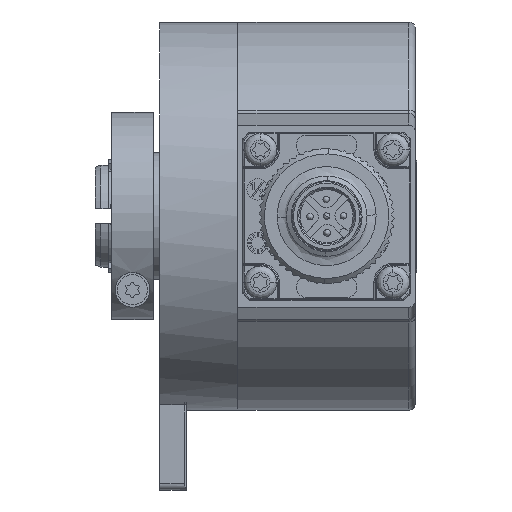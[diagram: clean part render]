
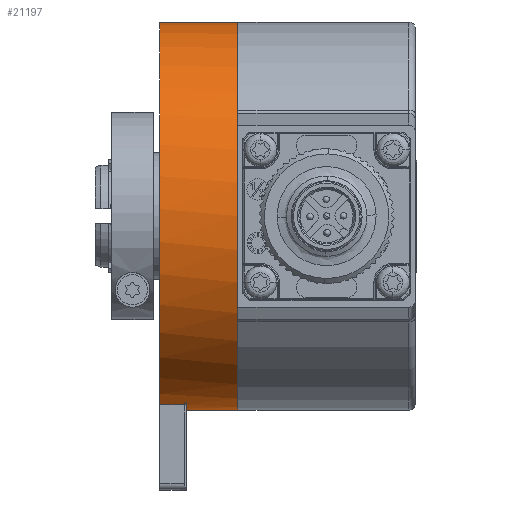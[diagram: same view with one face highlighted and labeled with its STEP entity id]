
A CAD part, front view. The second image highlights one B-rep face of the part: STEP entity #21197.
In plain terms, the highlighted cylindrical face has radius 29 mm (diameter 58 mm), a partial arc.
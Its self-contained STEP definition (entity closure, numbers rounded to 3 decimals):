
#520 = VERTEX_POINT ( 'NONE', #46749 ) ;
#3657 = ORIENTED_EDGE ( 'NONE', *, *, #9988, .T. ) ;
#4505 = AXIS2_PLACEMENT_3D ( 'NONE', #44130, #8391, #11355 ) ;
#5128 = DIRECTION ( 'NONE',  ( 1., 0., 0. ) ) ;
#5251 = CARTESIAN_POINT ( 'NONE',  ( 0.378, 25.423, -29. ) ) ;
#5910 = AXIS2_PLACEMENT_3D ( 'NONE', #47249, #38697, #51531 ) ;
#6251 = VERTEX_POINT ( 'NONE', #5251 ) ;
#8391 = DIRECTION ( 'NONE',  ( 1., 0., 0. ) ) ;
#9988 = EDGE_CURVE ( 'NONE', #520, #19162, #14716, .T. ) ;
#11355 = DIRECTION ( 'NONE',  ( 0., 0., -1. ) ) ;
#12588 = LINE ( 'NONE', #25666, #23919 ) ;
#13650 = EDGE_LOOP ( 'NONE', ( #15239, #3657, #31867, #35582, #44698, #43561 ) ) ;
#14382 = VERTEX_POINT ( 'NONE', #50477 ) ;
#14716 = CIRCLE ( 'NONE', #42860, 29. ) ;
#15190 = LINE ( 'NONE', #52017, #41153 ) ;
#15239 = ORIENTED_EDGE ( 'NONE', *, *, #41813, .F. ) ;
#16398 = LINE ( 'NONE', #36922, #51394 ) ;
#18223 = FACE_OUTER_BOUND ( 'NONE', #13650, .T. ) ;
#19162 = VERTEX_POINT ( 'NONE', #41524 ) ;
#20288 = DIRECTION ( 'NONE',  ( 0., 0., -1. ) ) ;
#21197 = ADVANCED_FACE ( 'NONE', ( #18223 ), #34448, .T. ) ;
#21645 = CARTESIAN_POINT ( 'NONE',  ( 0.378, 18.423, -28.142 ) ) ;
#22115 = VERTEX_POINT ( 'NONE', #21645 ) ;
#23488 = DIRECTION ( 'NONE',  ( 1., 0., 0. ) ) ;
#23807 = CARTESIAN_POINT ( 'NONE',  ( 8.068, 25.423, 29. ) ) ;
#23919 = VECTOR ( 'NONE', #5128, 1000. ) ;
#24741 = EDGE_CURVE ( 'NONE', #6251, #14382, #12588, .T. ) ;
#25666 = CARTESIAN_POINT ( 'NONE',  ( 8.068, 25.423, -29. ) ) ;
#26443 = VERTEX_POINT ( 'NONE', #23807 ) ;
#26718 = DIRECTION ( 'NONE',  ( -1., 0., 0. ) ) ;
#27528 = EDGE_CURVE ( 'NONE', #22115, #6251, #30628, .T. ) ;
#28357 = CIRCLE ( 'NONE', #4505, 29. ) ;
#30227 = DIRECTION ( 'NONE',  ( 0., 0., -1. ) ) ;
#30480 = CARTESIAN_POINT ( 'NONE',  ( 8.068, 25.423, 0. ) ) ;
#30628 = CIRCLE ( 'NONE', #5910, 29. ) ;
#31867 = ORIENTED_EDGE ( 'NONE', *, *, #51707, .F. ) ;
#34448 = CYLINDRICAL_SURFACE ( 'NONE', #41461, 29. ) ;
#35582 = ORIENTED_EDGE ( 'NONE', *, *, #27528, .T. ) ;
#36922 = CARTESIAN_POINT ( 'NONE',  ( 8.068, 25.423, 29. ) ) ;
#37652 = DIRECTION ( 'NONE',  ( 1., 0., 0. ) ) ;
#38697 = DIRECTION ( 'NONE',  ( 1., 0., 0. ) ) ;
#39689 = CARTESIAN_POINT ( 'NONE',  ( -3.622, 25.423, 0. ) ) ;
#40132 = DIRECTION ( 'NONE',  ( 1., 0., 0. ) ) ;
#40804 = EDGE_CURVE ( 'NONE', #26443, #14382, #28357, .T. ) ;
#41153 = VECTOR ( 'NONE', #26718, 1000. ) ;
#41461 = AXIS2_PLACEMENT_3D ( 'NONE', #30480, #37652, #30227 ) ;
#41524 = CARTESIAN_POINT ( 'NONE',  ( -3.622, 18.423, -28.142 ) ) ;
#41813 = EDGE_CURVE ( 'NONE', #520, #26443, #16398, .T. ) ;
#42860 = AXIS2_PLACEMENT_3D ( 'NONE', #39689, #23488, #20288 ) ;
#43561 = ORIENTED_EDGE ( 'NONE', *, *, #40804, .F. ) ;
#44130 = CARTESIAN_POINT ( 'NONE',  ( 8.068, 25.423, 0. ) ) ;
#44698 = ORIENTED_EDGE ( 'NONE', *, *, #24741, .T. ) ;
#46749 = CARTESIAN_POINT ( 'NONE',  ( -3.622, 25.423, 29. ) ) ;
#47249 = CARTESIAN_POINT ( 'NONE',  ( 0.378, 25.423, 0. ) ) ;
#50477 = CARTESIAN_POINT ( 'NONE',  ( 8.068, 25.423, -29. ) ) ;
#51394 = VECTOR ( 'NONE', #40132, 1000. ) ;
#51531 = DIRECTION ( 'NONE',  ( 0., 0., 1. ) ) ;
#51707 = EDGE_CURVE ( 'NONE', #22115, #19162, #15190, .T. ) ;
#52017 = CARTESIAN_POINT ( 'NONE',  ( 8.068, 18.423, -28.142 ) ) ;
